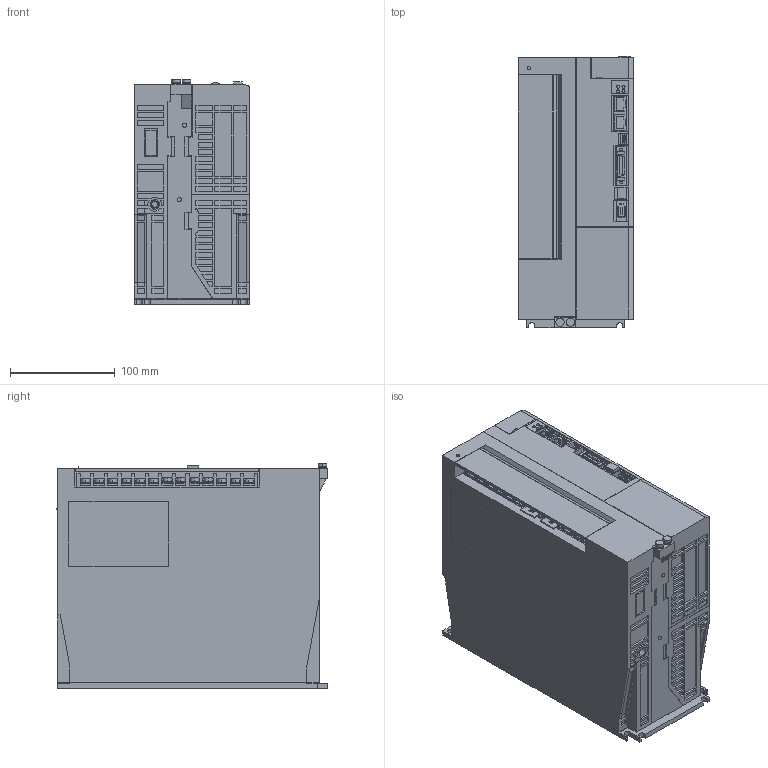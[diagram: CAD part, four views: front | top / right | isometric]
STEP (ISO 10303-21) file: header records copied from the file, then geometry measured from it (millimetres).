
FILE_DESCRIPTION (( 'STEP AP203' ), '1' );
FILE_NAME ('sgd7s_330aa0a.STEP', '2015-10-02T02:26:22', ( '匠エンジニアリング山之内' ), ( 'TAKUMI-Engniaring' ), 'SwSTEP 2.0', 'SolidWorks 2006303', '' );
FILE_SCHEMA (( 'CONFIG_CONTROL_DESIGN' ));
Products named in the file (8): sgd7s_330aa0a_cover3; sgd7s_330aa0a_terminal; sgd7s_330aa0a; sgd7s_330aa0a_base; sgd7s_330aa0a_cover; sgd7s_330aa0a_cover2; sgd7s_330aa0a_connector; sgd7s_330aa0a_cover4
Assembly tree (9 placements, depth 2):
  sgd7s_330aa0a
    sgd7s_330aa0a_connector
    sgd7s_330aa0a_terminal  x2
    sgd7s_330aa0a_cover4
    sgd7s_330aa0a_cover3
    sgd7s_330aa0a_base
    sgd7s_330aa0a_cover2  x2
    sgd7s_330aa0a_cover
Bounding box: 110.5 x 259 x 214.6 mm (x, y, z)
Volume: 5479130.2 mm3; surface area: 294200.9 mm2
Topology: 9 solids, 9 shells, 2142 faces, 5551 edges, 3674 vertices
Faces by surface type: plane 1832, cylinder 309, sphere 1
Entity records: 64151 total; most frequent: CARTESIAN_POINT 11146, ORIENTED_EDGE 10874, DIRECTION 10289, EDGE_CURVE 5437, VECTOR 4807, LINE 4807, VERTEX_POINT 3598, AXIS2_PLACEMENT_3D 2741
